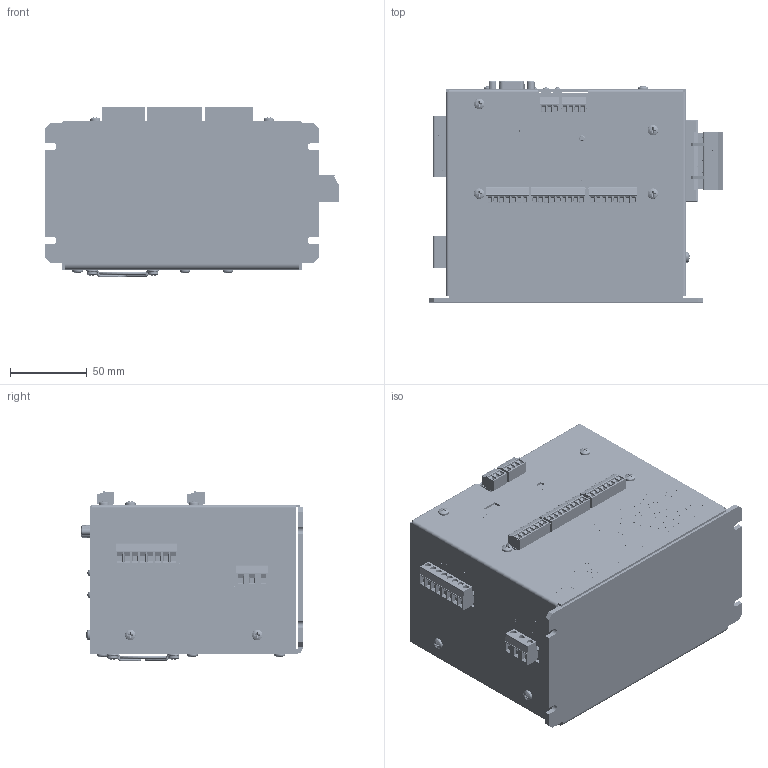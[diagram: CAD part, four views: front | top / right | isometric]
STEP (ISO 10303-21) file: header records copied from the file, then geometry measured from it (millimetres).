
FILE_DESCRIPTION (( 'STEP AP214' ), '1' );
FILE_NAME ('DPMLA601.STEP', '2011-01-27T22:21:52', ( '' ), ( '' ), 'SwSTEP 2.0', 'SolidWorks 2011', '' );
FILE_SCHEMA (( 'AUTOMOTIVE_DESIGN' ));
Length unit declared in the file: inch
Products named in the file (75): 1803646; 1803633; 1803620; 1803594; 1803581; 1754562; 1766893; pan cross head_ai_CR-PHMS 0.112-40x0.3125x0.3125-S; 1804933; 1861183; AA4160B-3PCB; Standoff, 6-32x.250, ROUND_6-32 X .312; Flat Washer Type A Narrow_AI_Preferred Narrow FW 0.138; SWT-KST241GLFS; SWT-5-1437581-6; Machine Screw Nut Hex_AI_MSHXNUT 0.112-40-D-S; WSH-KE3049; Flat Head Screw_AI_CR-FHMS 0.112-40x0.375x0.375-S; VRG-7805; CAP-0144; LED-0006; Machine Screw Nut Hex_AI_MSHXNUT 0.099-56-D-S; Internal Tooth-lock Washers_AI_Internal Tooth LW Type A-0.086; Pan Cross Head_AI_CR-PHMS 0.112-40x0.375x0.375-S; CON-H2R09RA29B; CON-H9081; 1803497; 1803484; 1803471; 1803442; 1803439; Heat Sink, PCL601, PCL601USB; AA4160BPCB; AA4981A-1PCB; CON-0064; SWT-BP04YT_SWT-BP04YT; LED-RA Series_LED-0005; LED-RA Series_LED-0001; POT-0018; 1757527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
Assembly tree (160 placements, depth 3):
  DPMLA601
    machine screw nut hex_ai_MSHXNUT 0.138-32-D-S  x6
    Pan Cross Head_AI_CR-PHMS 0.138-32x0.25x0.25-S  x10
    Pan Cross Head_AI_CR-PHMS 0.138-32x0.375x0.375-S  x8
    1803581
    internal tooth-lock washers_ai_Internal Tooth LW Type A-0.125  x4
    1754562
    AA4160B-3PCB
      Machine Screw Nut Hex_AI_MSHXNUT 0.099-56-D-S  x2
      1803471
      LED-0006
      SWT-5-1437581-6
      Machine Screw Nut Hex_AI_MSHXNUT 0.112-40-D-S
      Internal Tooth-lock Washers_AI_Internal Tooth LW Type A-0.086  x2
      CAP-0144  x2
      Standoff, 6-32x.250, ROUND_6-32 X .312  x4
      CON-H2R09RA29B
      Pan Cross Head_AI_CR-PHMS 0.138-32x0.25x0.25-S  x4
      Flat Washer Type A Narrow_AI_Preferred Narrow FW 0.138  x2
      1803484
      Flat Head Screw_AI_CR-FHMS 0.112-40x0.375x0.375-S
      AA4160BPCB
      SWT-KST241GLFS
      CON-H9081
      1803439
      Pan Cross Head_AI_CR-PHMS 0.112-40x0.375x0.375-S  x2
      1803442
      VRG-7805
      Heat Sink, PCL601, PCL601USB
      WSH-KE3049
      1803497
    AA4981A-1PCB
      CON-0064
      LED-RA Series_LED-0001
      SWT-BP04YT_SWT-BP04YT
      LED-RA Series_LED-0005
      AA4981APCB
      1757527
      POT-0018
    AA4980A-1PCB
      Pan Cross Head_AI_CR-PHMS 0.138-32x0.375x0.375-S
      Standoff, 6-32x.250_STD-632112H  x3
      Pan Cross Head_AI_CR-PHMS 0.138-32x0.5x0.5-S  x3
      RES-3W-.05  x4
      CLP-MAX07  x11
      TRS-IRFB4229PBF  x11
      Heat Sink, MLA10641
      DIO-KBU8G_Long pins
      AA4980APCB
      Pan Cross Head_AI_CR-PHMS 0.138-32x0.25x0.25-S  x11
      CON-0063
      STD-63212H-M-F_STD-63212H  x2
      Standoff, 4-40x.187_4-40 X .500
      Standoff, 6-32x.250, ROUND_6-32 x .250  x2
      LED-RA Series_LED-0002
      Pan Cross Head_AI_CR-PHMS 0.112-40x0.25x0.25-S
      CAP-0202  x2
      CAP-0215
      1766356
    Cover, DPMLA601
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Bounding box: 190.81 x 143.9 x 110.99 mm (x, y, z)
Volume: 470499.7 mm3; surface area: 405762.4 mm2
Topology: 162 solids, 162 shells, 28067 faces, 73018 edges, 47201 vertices
Faces by surface type: plane 15010, bspline 4976, cylinder 4590, cone 3080, torus 296, sphere 115
Entity records: 1183860 total; most frequent: CARTESIAN_POINT 387647, ORIENTED_EDGE 116512, DIRECTION 90410, EDGE_CURVE 58256, LINE 39732, VECTOR 39732, VERTEX_POINT 38067, AXIS2_PLACEMENT_3D 25339
